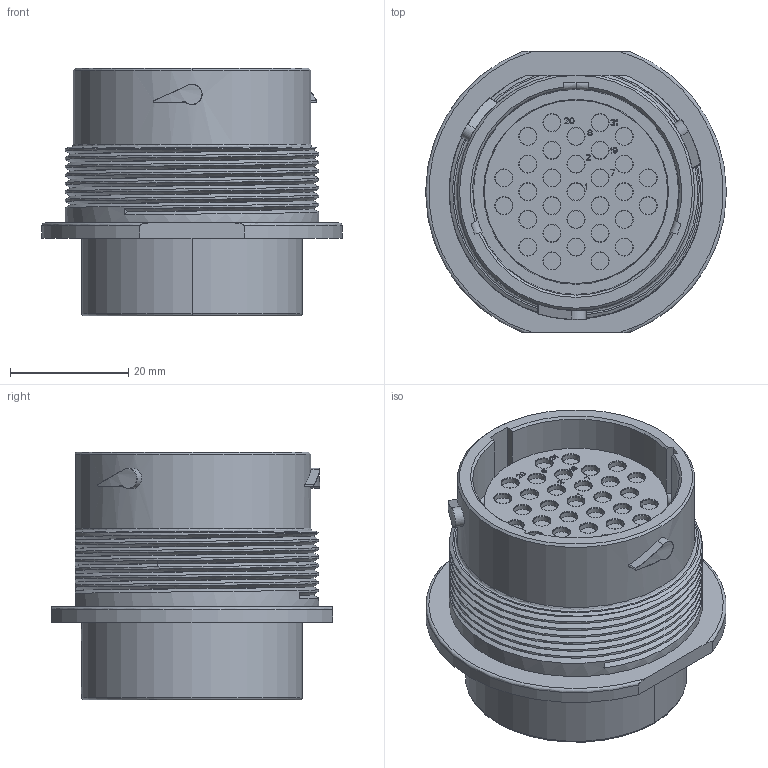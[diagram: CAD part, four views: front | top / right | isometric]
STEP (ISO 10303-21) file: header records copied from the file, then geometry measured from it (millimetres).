
FILE_DESCRIPTION((''),'2;1');
FILE_NAME('C-HDP24-24-31ST','2013-05-10T',('workeradm'),('Tyco Electronics Ltd.'),'PRO/ENGINEER BY PARAMETRIC TECHNOLOGY CORPORATION, 2011490','PRO/ENGINEER BY PARAMETRIC TECHNOLOGY CORPORATION, 2011490','');
FILE_SCHEMA(('AUTOMOTIVE_DESIGN { 1 0 10303 214 1 1 1 1 }'));
Length unit declared in the file: millimetre
Products named in the file (1): C-HDP24-24-31ST
Bounding box: 50.8 x 47.62 x 41.86 mm (x, y, z)
Volume: 45762.7 mm3; surface area: 14149.6 mm2
Topology: 1 solids, 1 shells, 977 faces, 2303 edges, 1445 vertices
Faces by surface type: plane 446, cylinder 287, torus 135, cone 70, bspline 39
Entity records: 48486 total; most frequent: CARTESIAN_POINT 25362, DIRECTION 4883, ORIENTED_EDGE 4606, EDGE_CURVE 2303, AXIS2_PLACEMENT_3D 1767, VERTEX_POINT 1445, VECTOR 1349, LINE 1349
